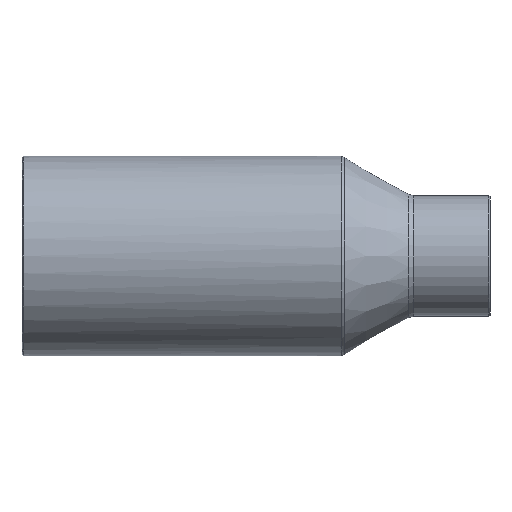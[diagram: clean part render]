
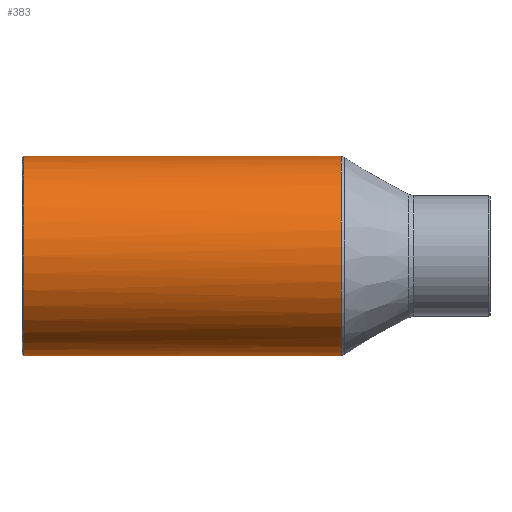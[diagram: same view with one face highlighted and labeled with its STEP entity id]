
A CAD part, front view. The second image highlights one B-rep face of the part: STEP entity #383.
In plain terms, the highlighted cylindrical face has radius 19.85 mm (diameter 39.7 mm), a full revolution.
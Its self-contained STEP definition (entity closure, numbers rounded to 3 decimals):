
#121=CARTESIAN_POINT('',(0.,0.0,-19.85));
#122=VERTEX_POINT('',#121);
#123=CARTESIAN_POINT('',(0.,0.0,19.85));
#124=VERTEX_POINT('',#123);
#309=CARTESIAN_POINT('',(-43.3,19.85,0.));
#310=VERTEX_POINT('',#309);
#311=CARTESIAN_POINT('',(-43.3,0.0,0.0));
#312=DIRECTION('',(-1.0,0.0,0.0));
#313=DIRECTION('',(0.0,-1.0,0.0));
#314=AXIS2_PLACEMENT_3D('',#311,#312,#313);
#315=CIRCLE('',#314,19.85);
#316=EDGE_CURVE('',#310,#310,#315,.T.);
#341=CARTESIAN_POINT('',(2.95,0.0,0.0));
#342=DIRECTION('',(1.0,0.0,0.0));
#343=DIRECTION('',(0.0,1.0,0.0));
#344=AXIS2_PLACEMENT_3D('',#341,#342,#343);
#345=CYLINDRICAL_SURFACE('',#344,19.85);
#346=CARTESIAN_POINT('',(19.86,16.19,11.485));
#347=VERTEX_POINT('',#346);
#348=CARTESIAN_POINT('',(19.86,16.19,-11.485));
#349=VERTEX_POINT('',#348);
#350=CARTESIAN_POINT('',(19.86,0.0,0.0));
#351=DIRECTION('',(1.0,0.0,0.0));
#352=DIRECTION('',(0.0,-1.0,0.0));
#353=AXIS2_PLACEMENT_3D('',#350,#351,#352);
#354=CIRCLE('',#353,19.85);
#355=EDGE_CURVE('',#347,#349,#354,.T.);
#356=ORIENTED_EDGE('',*,*,#355,.F.);
#357=CARTESIAN_POINT('',(0.0,0.0,0.0));
#358=DIRECTION('',(-0.632,0.775,0.0));
#359=DIRECTION('',(0.775,0.632,0.0));
#360=AXIS2_PLACEMENT_3D('',#357,#358,#359);
#361=ELLIPSE('',#360,31.416,19.85);
#362=EDGE_CURVE('',#124,#347,#361,.T.);
#363=ORIENTED_EDGE('',*,*,#362,.F.);
#364=CARTESIAN_POINT('',(0.0,0.0,0.0));
#365=DIRECTION('',(0.632,0.775,0.0));
#366=DIRECTION('',(-0.775,0.632,0.0));
#367=AXIS2_PLACEMENT_3D('',#364,#365,#366);
#368=ELLIPSE('',#367,31.416,19.85);
#369=EDGE_CURVE('',#122,#124,#368,.T.);
#370=ORIENTED_EDGE('',*,*,#369,.F.);
#371=CARTESIAN_POINT('',(0.0,0.0,0.0));
#372=DIRECTION('',(-0.632,0.775,0.0));
#373=DIRECTION('',(0.775,0.632,0.0));
#374=AXIS2_PLACEMENT_3D('',#371,#372,#373);
#375=ELLIPSE('',#374,31.416,19.85);
#376=EDGE_CURVE('',#349,#122,#375,.T.);
#377=ORIENTED_EDGE('',*,*,#376,.F.);
#378=EDGE_LOOP('',(#356,#363,#370,#377));
#379=FACE_OUTER_BOUND('',#378,.T.);
#380=ORIENTED_EDGE('',*,*,#316,.F.);
#381=EDGE_LOOP('',(#380));
#382=FACE_BOUND('',#381,.T.);
#383=ADVANCED_FACE('',(#379,#382),#345,.T.);
